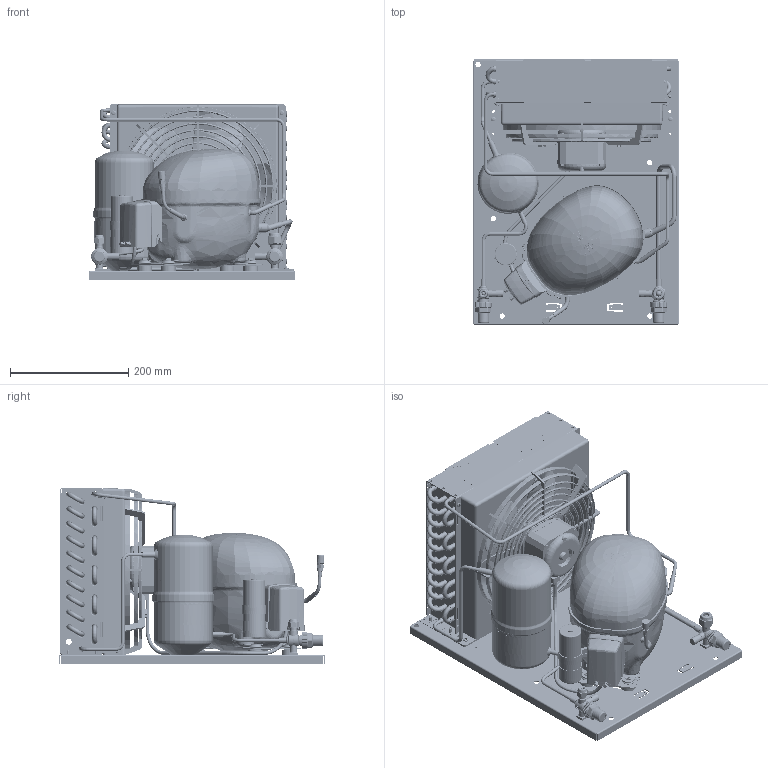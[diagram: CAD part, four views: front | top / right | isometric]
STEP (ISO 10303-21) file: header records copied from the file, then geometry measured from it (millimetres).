
FILE_DESCRIPTION(/* description */ ('Unknown'),/* implementation_level */ '2;1');
FILE_NAME(/* name */ '2298-0052',/* time_stamp */ '2021-12-15T09:24:40+01:00',/* author */ ('Unknown'),/* organization */ ('Unknown'),/* preprocessor_version */ 'ST-DEVELOPER v16.7',/* originating_system */ 'Solid Edge',/* authorisation */ 'Unknown');
FILE_SCHEMA (('AUTOMOTIVE_DESIGN {1 0 10303 214 3 1 1}'));
Length unit declared in the file: millimetre
Products named in the file (44): 2298-0052; 92505122_oa_0; NLE12.6MF2-A-CSIR; 84DM8X6.9XXESRF00; 1130270f70; r50112006; r50112007; 2990210; r59700314; r50112001; r50004308; 99000000_piccola; cg254n; NET3T16PVN018; 84fm8x12xxxteff00; A254-22; 100_200vs00; 6072_23M8; 6062_22M6; 84v1.8x35xxcopf00; 8392_A; 84RM10X21XXPIAF00; 7210-0003; 7010_22; 7560_2; 7560_3; 7030_3m10; 84a4.2x9.5xtbcf01; 84t4.8x8xxxtcca00_oa_1; 84t4.8x8xxxtcca00_oa_2; 84t4.8x8xxxtcca00_oa_3; 84t4.8x8xxxtcca00_oa_4; 99510255_Curva120°; 8351_2; 99510255_Tubo_Curva120°; 84dm4x3.6xxesrf00; 99000082_secop; 680063694; 680063695; 99000082_SECOP_F-GAS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
Assembly tree (92 placements, depth 3):
  2298-0052
    92505122_oa_0
    NLE12.6MF2-A-CSIR
    84DM8X6.9XXESRF00
    1130270f70
      r50112006
      r50112007
      2990210  x15
      r59700314  x16
      r50112001
      r50004308
      99000000_piccola
    cg254n
    NET3T16PVN018
    84fm8x12xxxteff00  x2
    A254-22
    100_200vs00
    6072_23M8
    6062_22M6
    84v1.8x35xxcopf00  x4
    8392_A  x3
    84RM10X21XXPIAF00  x4
    7210-0003  x2
    7010_22
    7560_2
    7560_3
    7030_3m10
    84a4.2x9.5xtbcf01  x4
    84t4.8x8xxxtcca00_oa_1
    84t4.8x8xxxtcca00_oa_2
    84t4.8x8xxxtcca00_oa_3
    84t4.8x8xxxtcca00_oa_4
    99510255_Curva120°
      8351_2
      99510255_Tubo_Curva120°
      8392_A
    84dm4x3.6xxesrf00  x4
    99000082_secop
    680063694
    680063695
    99000082_SECOP_F-GAS
    680065423
    118-3661  x4
    2298-0052_CAVO_VENTOLA
    680082432
Bounding box: 350 x 450 x 297.36 mm (x, y, z)
Volume: 5504289.4 mm3; surface area: 2533479.7 mm2
Topology: 96 solids, 101 shells, 9053 faces, 23250 edges, 14972 vertices
Faces by surface type: plane 5190, cylinder 1594, bspline 1095, torus 568, cone 496, sphere 110
Full cylindrical faces by diameter (mm): 1 x4, 1.2 x4, 1.8 x20, 1.869 x1, 1.951 x1, 2.2 x8, 2.27 x3, 2.277 x3, 2.286 x1, 2.7 x4, 3 x7, 3.2 x1, 3.242 x4, 3.3 x2, 3.4 x4, 3.5 x16, 3.6 x4, 3.7 x4, 3.85 x2, 3.962 x1, 4 x16, 4.064 x1, 4.1 x1, 4.2 x19, 4.255 x3, 4.3 x1, 4.4 x4, 4.5 x6, 4.6 x1, 4.66 x4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
Entity records: 367064 total; most frequent: CARTESIAN_POINT 152347, ORIENTED_EDGE 40542, DIRECTION 31322, EDGE_CURVE 20271, VERTEX_POINT 13633, AXIS2_PLACEMENT_3D 11271, FACE_BOUND 10712, EDGE_LOOP 10710
